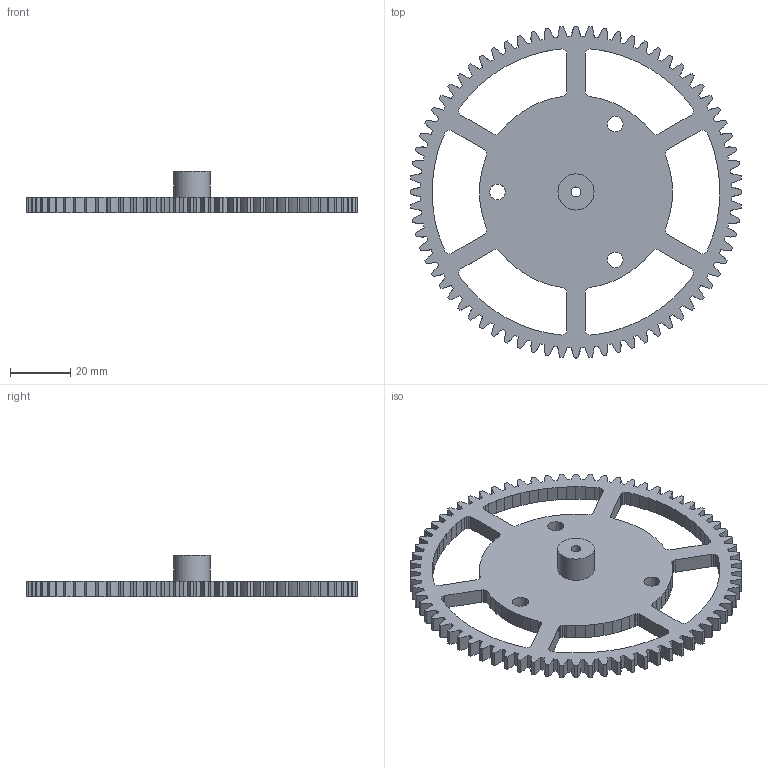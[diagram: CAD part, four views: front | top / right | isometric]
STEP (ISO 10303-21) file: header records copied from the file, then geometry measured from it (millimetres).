
FILE_DESCRIPTION(('Open CASCADE Model'),'2;1');
FILE_NAME('Open CASCADE Shape Model','2026-10-05T13:03:05',('Author'),( 'Open CASCADE'),'Open CASCADE STEP processor 7.9','Open CASCADE 7.9' ,'Unknown');
FILE_SCHEMA(('AUTOMOTIVE_DESIGN { 1 0 10303 214 1 1 1 1 }'));
Length unit declared in the file: millimetre
Products named in the file (1): Open CASCADE STEP translator 7.9 6
Bounding box: 110.1 x 110.1 x 13.6 mm (x, y, z)
Volume: 28487.9 mm3; surface area: 18192 mm2
Topology: 1 solids, 1 shells, 540 faces, 1611 edges, 1074 vertices
Faces by surface type: plane 247, cylinder 149, extrusion 144
Full cylindrical faces by diameter (mm): 3.3 x1, 5.2 x3, 12 x1
Entity records: 42934 total; most frequent: CARTESIAN_POINT 11488, DIRECTION 5493, VECTOR 3805, LINE 3661, ORIENTED_EDGE 3222, PCURVE 3222, DEFINITIONAL_REPRESENTATION 3222, EDGE_CURVE 1611
